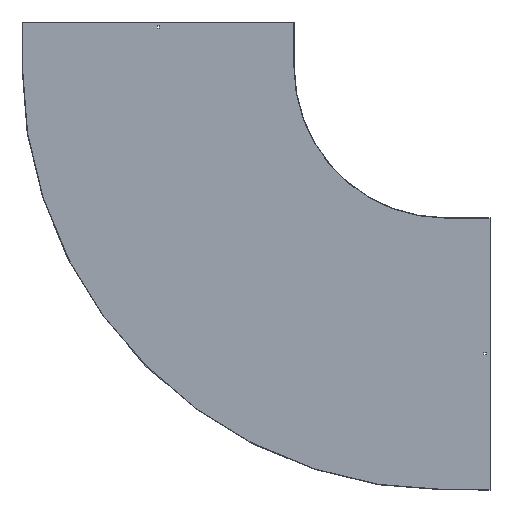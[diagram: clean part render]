
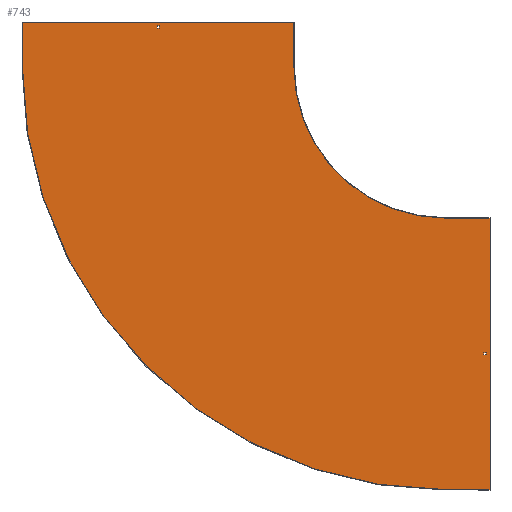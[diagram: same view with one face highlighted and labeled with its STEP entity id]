
A CAD part, front view. The second image highlights one B-rep face of the part: STEP entity #743.
In plain terms, the highlighted planar face has unit normal (0, -1, 0).
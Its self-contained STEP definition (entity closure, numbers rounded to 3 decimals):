
#1 = DIRECTION ( 'NONE',  ( 0., 0., 1. ) ) ;
#2 = CARTESIAN_POINT ( 'NONE',  ( -946.75, -1.5, 0. ) ) ;
#9 = EDGE_LOOP ( 'NONE', ( #64, #170, #820, #45 ) ) ;
#18 = DIRECTION ( 'NONE',  ( 1., 0., 0. ) ) ;
#23 = LINE ( 'NONE', #795, #713 ) ;
#24 = VERTEX_POINT ( 'NONE', #91 ) ;
#45 = ORIENTED_EDGE ( 'NONE', *, *, #180, .F. ) ;
#48 = LINE ( 'NONE', #2, #798 ) ;
#49 = CIRCLE ( 'NONE', #250, 1400. ) ;
#50 = CIRCLE ( 'NONE', #212, 500. ) ;
#54 = LINE ( 'NONE', #329, #786 ) ;
#57 = CARTESIAN_POINT ( 'NONE',  ( 129., -1.5, -946.75 ) ) ;
#64 = ORIENTED_EDGE ( 'NONE', *, *, #730, .F. ) ;
#74 = CARTESIAN_POINT ( 'NONE',  ( -1400., -1.5, 150. ) ) ;
#81 = ORIENTED_EDGE ( 'NONE', *, *, #806, .T. ) ;
#91 = CARTESIAN_POINT ( 'NONE',  ( -953.25, -1.5, 129. ) ) ;
#92 = LINE ( 'NONE', #235, #840 ) ;
#93 = FACE_OUTER_BOUND ( 'NONE', #755, .T. ) ;
#98 = ORIENTED_EDGE ( 'NONE', *, *, #316, .F. ) ;
#101 = ORIENTED_EDGE ( 'NONE', *, *, #464, .F. ) ;
#114 = VERTEX_POINT ( 'NONE', #396 ) ;
#122 = EDGE_CURVE ( 'NONE', #24, #350, #405, .T. ) ;
#132 = EDGE_LOOP ( 'NONE', ( #579, #81, #379, #154 ) ) ;
#136 = DIRECTION ( 'NONE',  ( 0., 0., -1. ) ) ;
#149 = ORIENTED_EDGE ( 'NONE', *, *, #324, .F. ) ;
#150 = CARTESIAN_POINT ( 'NONE',  ( 129., -1.5, -953.25 ) ) ;
#152 = CARTESIAN_POINT ( 'NONE',  ( 0., -1.5, -500. ) ) ;
#154 = ORIENTED_EDGE ( 'NONE', *, *, #122, .T. ) ;
#164 = EDGE_CURVE ( 'NONE', #610, #671, #49, .T. ) ;
#165 = CARTESIAN_POINT ( 'NONE',  ( -500., -1.5, 150. ) ) ;
#170 = ORIENTED_EDGE ( 'NONE', *, *, #267, .F. ) ;
#173 = EDGE_CURVE ( 'NONE', #671, #484, #725, .T. ) ;
#180 = EDGE_CURVE ( 'NONE', #802, #303, #54, .T. ) ;
#183 = EDGE_CURVE ( 'NONE', #675, #24, #673, .T. ) ;
#186 = CARTESIAN_POINT ( 'NONE',  ( 0., -1.5, -946.75 ) ) ;
#188 = VECTOR ( 'NONE', #538, 1000. ) ;
#195 = DIRECTION ( 'NONE',  ( 0., 1., 0. ) ) ;
#196 = VECTOR ( 'NONE', #750, 1000. ) ;
#212 = AXIS2_PLACEMENT_3D ( 'NONE', #578, #432, #643 ) ;
#235 = CARTESIAN_POINT ( 'NONE',  ( 138., -1.5, 0. ) ) ;
#247 = CARTESIAN_POINT ( 'NONE',  ( 0., -1.5, 129. ) ) ;
#250 = AXIS2_PLACEMENT_3D ( 'NONE', #792, #195, #600 ) ;
#267 = EDGE_CURVE ( 'NONE', #483, #554, #92, .T. ) ;
#272 = FACE_BOUND ( 'NONE', #132, .T. ) ;
#274 = DIRECTION ( 'NONE',  ( 0., 0., 1. ) ) ;
#285 = FACE_BOUND ( 'NONE', #9, .T. ) ;
#292 = CARTESIAN_POINT ( 'NONE',  ( 0., -1.5, -953.25 ) ) ;
#295 = ORIENTED_EDGE ( 'NONE', *, *, #173, .F. ) ;
#296 = LINE ( 'NONE', #818, #797 ) ;
#300 = CARTESIAN_POINT ( 'NONE',  ( 0., -1.5, -1400. ) ) ;
#303 = VERTEX_POINT ( 'NONE', #150 ) ;
#304 = VECTOR ( 'NONE', #136, 1000. ) ;
#313 = EDGE_CURVE ( 'NONE', #303, #483, #414, .T. ) ;
#316 = EDGE_CURVE ( 'NONE', #340, #793, #429, .T. ) ;
#321 = EDGE_CURVE ( 'NONE', #793, #384, #296, .T. ) ;
#324 = EDGE_CURVE ( 'NONE', #484, #689, #23, .T. ) ;
#329 = CARTESIAN_POINT ( 'NONE',  ( 129., -1.5, 0. ) ) ;
#338 = LINE ( 'NONE', #543, #304 ) ;
#340 = VERTEX_POINT ( 'NONE', #152 ) ;
#347 = ORIENTED_EDGE ( 'NONE', *, *, #321, .F. ) ;
#350 = VERTEX_POINT ( 'NONE', #863 ) ;
#363 = CARTESIAN_POINT ( 'NONE',  ( -1400., -1.5, 0. ) ) ;
#371 = ORIENTED_EDGE ( 'NONE', *, *, #164, .F. ) ;
#375 = VECTOR ( 'NONE', #765, 1000. ) ;
#379 = ORIENTED_EDGE ( 'NONE', *, *, #183, .T. ) ;
#384 = VERTEX_POINT ( 'NONE', #617 ) ;
#386 = VECTOR ( 'NONE', #558, 1000. ) ;
#394 = LINE ( 'NONE', #397, #188 ) ;
#396 = CARTESIAN_POINT ( 'NONE',  ( -500., -1.5, 0. ) ) ;
#397 = CARTESIAN_POINT ( 'NONE',  ( 150., -1.5, -1400. ) ) ;
#405 = LINE ( 'NONE', #721, #645 ) ;
#409 = DIRECTION ( 'NONE',  ( 0., 0., -1. ) ) ;
#414 = LINE ( 'NONE', #292, #386 ) ;
#429 = LINE ( 'NONE', #813, #704 ) ;
#432 = DIRECTION ( 'NONE',  ( 0., -1., 0. ) ) ;
#435 = CARTESIAN_POINT ( 'NONE',  ( 150., -1.5, -500. ) ) ;
#464 = EDGE_CURVE ( 'NONE', #689, #114, #338, .T. ) ;
#470 = DIRECTION ( 'NONE',  ( 1., 0., 0. ) ) ;
#471 = VERTEX_POINT ( 'NONE', #614 ) ;
#474 = DIRECTION ( 'NONE',  ( 0., -1., 0. ) ) ;
#483 = VERTEX_POINT ( 'NONE', #674 ) ;
#484 = VERTEX_POINT ( 'NONE', #74 ) ;
#537 = VECTOR ( 'NONE', #1, 1000. ) ;
#538 = DIRECTION ( 'NONE',  ( -1., 0., 0. ) ) ;
#543 = CARTESIAN_POINT ( 'NONE',  ( -500., -1.5, 150. ) ) ;
#544 = CARTESIAN_POINT ( 'NONE',  ( 0., -1.5, 0. ) ) ;
#545 = EDGE_CURVE ( 'NONE', #114, #340, #50, .T. ) ;
#554 = VERTEX_POINT ( 'NONE', #754 ) ;
#558 = DIRECTION ( 'NONE',  ( 1., 0., 0. ) ) ;
#568 = CARTESIAN_POINT ( 'NONE',  ( 0., -1.5, 138. ) ) ;
#578 = CARTESIAN_POINT ( 'NONE',  ( 0., -1.5, 0. ) ) ;
#579 = ORIENTED_EDGE ( 'NONE', *, *, #817, .T. ) ;
#598 = DIRECTION ( 'NONE',  ( 0., 0., -1. ) ) ;
#600 = DIRECTION ( 'NONE',  ( 0., 0., -1. ) ) ;
#610 = VERTEX_POINT ( 'NONE', #300 ) ;
#614 = CARTESIAN_POINT ( 'NONE',  ( -946.75, -1.5, 138. ) ) ;
#617 = CARTESIAN_POINT ( 'NONE',  ( 150., -1.5, -1400. ) ) ;
#629 = CARTESIAN_POINT ( 'NONE',  ( -946.75, -1.5, 129. ) ) ;
#634 = ORIENTED_EDGE ( 'NONE', *, *, #794, .F. ) ;
#643 = DIRECTION ( 'NONE',  ( 0., 0., -1. ) ) ;
#645 = VECTOR ( 'NONE', #274, 1000. ) ;
#647 = VECTOR ( 'NONE', #650, 1000. ) ;
#650 = DIRECTION ( 'NONE',  ( -1., 0., 0. ) ) ;
#671 = VERTEX_POINT ( 'NONE', #363 ) ;
#673 = LINE ( 'NONE', #247, #196 ) ;
#674 = CARTESIAN_POINT ( 'NONE',  ( 138., -1.5, -953.25 ) ) ;
#675 = VERTEX_POINT ( 'NONE', #629 ) ;
#689 = VERTEX_POINT ( 'NONE', #165 ) ;
#696 = DIRECTION ( 'NONE',  ( 0., 0., 1. ) ) ;
#704 = VECTOR ( 'NONE', #18, 1000. ) ;
#713 = VECTOR ( 'NONE', #470, 1000. ) ;
#719 = DIRECTION ( 'NONE',  ( 0., 0., -1. ) ) ;
#721 = CARTESIAN_POINT ( 'NONE',  ( -953.25, -1.5, 0. ) ) ;
#725 = LINE ( 'NONE', #858, #537 ) ;
#730 = EDGE_CURVE ( 'NONE', #554, #802, #785, .T. ) ;
#743 = ADVANCED_FACE ( 'NONE', ( #285, #93, #272 ), #810, .T. ) ;
#750 = DIRECTION ( 'NONE',  ( -1., 0., 0. ) ) ;
#754 = CARTESIAN_POINT ( 'NONE',  ( 138., -1.5, -946.75 ) ) ;
#755 = EDGE_LOOP ( 'NONE', ( #149, #295, #371, #634, #347, #98, #767, #101 ) ) ;
#759 = DIRECTION ( 'NONE',  ( 0., 0., -1. ) ) ;
#765 = DIRECTION ( 'NONE',  ( 1., 0., 0. ) ) ;
#767 = ORIENTED_EDGE ( 'NONE', *, *, #545, .F. ) ;
#778 = AXIS2_PLACEMENT_3D ( 'NONE', #544, #474, #409 ) ;
#785 = LINE ( 'NONE', #186, #647 ) ;
#786 = VECTOR ( 'NONE', #598, 1000. ) ;
#792 = CARTESIAN_POINT ( 'NONE',  ( 0., -1.5, 0. ) ) ;
#793 = VERTEX_POINT ( 'NONE', #435 ) ;
#794 = EDGE_CURVE ( 'NONE', #384, #610, #394, .T. ) ;
#795 = CARTESIAN_POINT ( 'NONE',  ( -1401.5, -1.5, 150. ) ) ;
#797 = VECTOR ( 'NONE', #759, 1000. ) ;
#798 = VECTOR ( 'NONE', #719, 1000. ) ;
#802 = VERTEX_POINT ( 'NONE', #57 ) ;
#806 = EDGE_CURVE ( 'NONE', #471, #675, #48, .T. ) ;
#810 = PLANE ( 'NONE',  #778 ) ;
#813 = CARTESIAN_POINT ( 'NONE',  ( 0., -1.5, -500. ) ) ;
#817 = EDGE_CURVE ( 'NONE', #350, #471, #823, .T. ) ;
#818 = CARTESIAN_POINT ( 'NONE',  ( 150., -1.5, -498.5 ) ) ;
#820 = ORIENTED_EDGE ( 'NONE', *, *, #313, .F. ) ;
#823 = LINE ( 'NONE', #568, #375 ) ;
#840 = VECTOR ( 'NONE', #696, 1000. ) ;
#858 = CARTESIAN_POINT ( 'NONE',  ( -1400., -1.5, 0. ) ) ;
#863 = CARTESIAN_POINT ( 'NONE',  ( -953.25, -1.5, 138. ) ) ;
